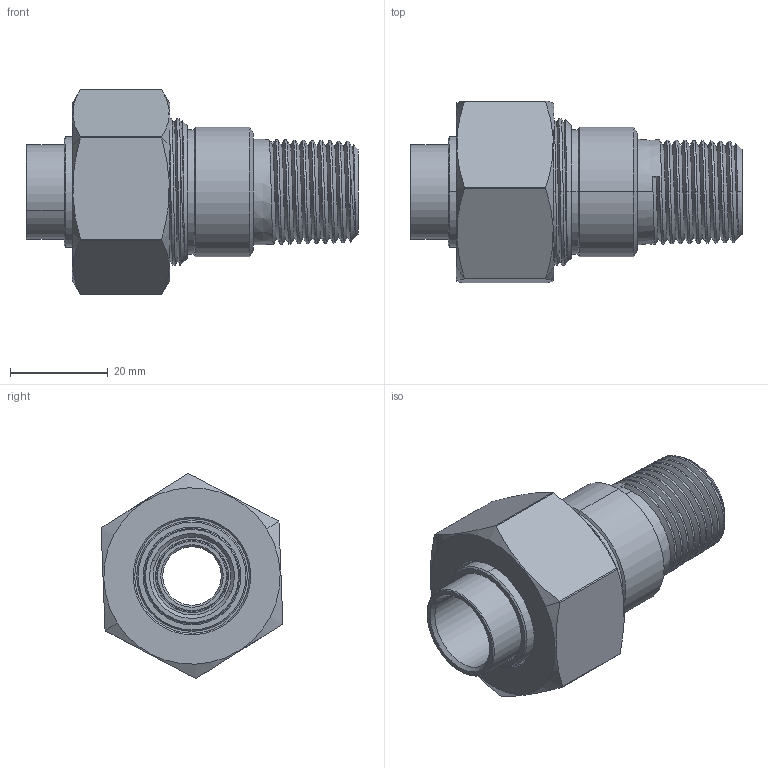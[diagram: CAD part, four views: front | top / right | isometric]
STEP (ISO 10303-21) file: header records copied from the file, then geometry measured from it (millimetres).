
FILE_DESCRIPTION(('Open CASCADE Model'),'2;1');
FILE_NAME('Open CASCADE Shape Model','2022-04-19T10:31:13',('Author'),( 'Open CASCADE'),'Open CASCADE STEP processor 7.3','Open CASCADE 7.3' ,'Unknown');
FILE_SCHEMA(('AUTOMOTIVE_DESIGN { 1 0 10303 214 1 1 1 1 }'));
Length unit declared in the file: millimetre
Products named in the file (6): Open CASCADE STEP translator 7.3 1; Open CASCADE STEP translator 7.3 1.1; Open CASCADE STEP translator 7.3 1.2; Open CASCADE STEP translator 7.3 1.3; Open CASCADE STEP translator 7.3 1.4; Open CASCADE STEP translator 7.3 1.5
Assembly tree (5 placements, depth 2):
  Open CASCADE STEP translator 7.3 1
    Open CASCADE STEP translator 7.3 1.1
    Open CASCADE STEP translator 7.3 1.2
    Open CASCADE STEP translator 7.3 1.3
    Open CASCADE STEP translator 7.3 1.4
    Open CASCADE STEP translator 7.3 1.5
Bounding box: 68.1 x 37.27 x 41.98 mm (x, y, z)
Volume: 32666.2 mm3; surface area: 19861 mm2
Topology: 5 solids, 5 shells, 164 faces, 400 edges, 254 vertices
Faces by surface type: cylinder 69, cone 57, plane 26, bspline 6, torus 6
Entity records: 27007 total; most frequent: CARTESIAN_POINT 19493, DIRECTION 1235, ORIENTED_EDGE 800, PCURVE 800, DEFINITIONAL_REPRESENTATION 800, LINE 595, VECTOR 595, EDGE_CURVE 400
